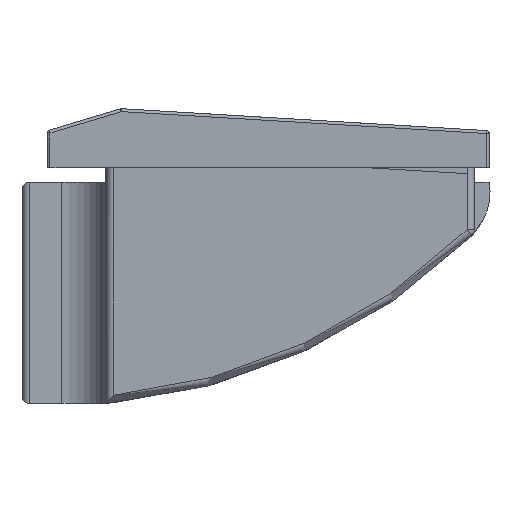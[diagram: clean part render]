
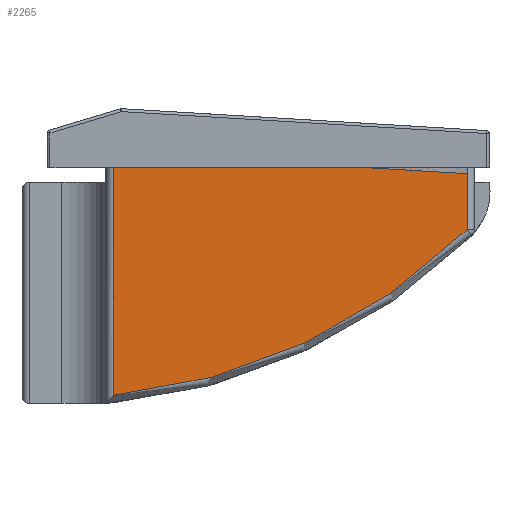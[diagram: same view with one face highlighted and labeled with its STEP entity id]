
A CAD part, left-side view. The second image highlights one B-rep face of the part: STEP entity #2265.
In plain terms, the highlighted planar face has unit normal (-1, 0, 0).
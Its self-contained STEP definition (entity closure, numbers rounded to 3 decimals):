
#56 = CARTESIAN_POINT ( 'NONE',  ( -51., 10.5, -17.454 ) ) ;
#97 = VECTOR ( 'NONE', #979, 1000. ) ;
#177 = DIRECTION ( 'NONE',  ( 0., 0., -1. ) ) ;
#242 = LINE ( 'NONE', #2097, #97 ) ;
#350 = ORIENTED_EDGE ( 'NONE', *, *, #1932, .T. ) ;
#358 = VERTEX_POINT ( 'NONE', #56 ) ;
#416 = CARTESIAN_POINT ( 'NONE',  ( -51., 10.5, -18. ) ) ;
#470 = LINE ( 'NONE', #416, #1157 ) ;
#568 = DIRECTION ( 'NONE',  ( 0., 0., 1. ) ) ;
#586 = LINE ( 'NONE', #1913, #2252 ) ;
#587 = VERTEX_POINT ( 'NONE', #2174 ) ;
#700 = PLANE ( 'NONE',  #1707 ) ;
#925 = DIRECTION ( 'NONE',  ( 0., 0., 1. ) ) ;
#926 = EDGE_CURVE ( 'NONE', #587, #358, #470, .T. ) ;
#979 = DIRECTION ( 'NONE',  ( 0., -1., 0. ) ) ;
#1157 = VECTOR ( 'NONE', #177, 1000. ) ;
#1207 = CARTESIAN_POINT ( 'NONE',  ( -51., 14.262, 21.867 ) ) ;
#1421 = DIRECTION ( 'NONE',  ( 0., 0., 1. ) ) ;
#1599 = CARTESIAN_POINT ( 'NONE',  ( -51., -13.5, -6.232 ) ) ;
#1707 = AXIS2_PLACEMENT_3D ( 'NONE', #2049, #2291, #925 ) ;
#1913 = CARTESIAN_POINT ( 'NONE',  ( -51., -13.5, -2. ) ) ;
#1932 = EDGE_CURVE ( 'NONE', #358, #2293, #1991, .T. ) ;
#1986 = ORIENTED_EDGE ( 'NONE', *, *, #2041, .T. ) ;
#1991 = CIRCLE ( 'NONE', #2115, 39.5 ) ;
#2041 = EDGE_CURVE ( 'NONE', #2293, #2582, #586, .T. ) ;
#2049 = CARTESIAN_POINT ( 'NONE',  ( -51., 14.262, 21.867 ) ) ;
#2097 = CARTESIAN_POINT ( 'NONE',  ( -51., 11., -2. ) ) ;
#2115 = AXIS2_PLACEMENT_3D ( 'NONE', #1207, #2780, #1421 ) ;
#2174 = CARTESIAN_POINT ( 'NONE',  ( -51., 10.5, -2. ) ) ;
#2212 = ORIENTED_EDGE ( 'NONE', *, *, #2401, .F. ) ;
#2252 = VECTOR ( 'NONE', #568, 1000. ) ;
#2265 = ADVANCED_FACE ( 'NONE', ( #2803 ), #700, .T. ) ;
#2291 = DIRECTION ( 'NONE',  ( -1., 0., 0. ) ) ;
#2293 = VERTEX_POINT ( 'NONE', #1599 ) ;
#2356 = EDGE_LOOP ( 'NONE', ( #350, #1986, #2212, #2495 ) ) ;
#2401 = EDGE_CURVE ( 'NONE', #587, #2582, #242, .T. ) ;
#2470 = CARTESIAN_POINT ( 'NONE',  ( -51., -13.5, -2. ) ) ;
#2495 = ORIENTED_EDGE ( 'NONE', *, *, #926, .T. ) ;
#2582 = VERTEX_POINT ( 'NONE', #2470 ) ;
#2780 = DIRECTION ( 'NONE',  ( -1., 0., 0. ) ) ;
#2803 = FACE_OUTER_BOUND ( 'NONE', #2356, .T. ) ;
